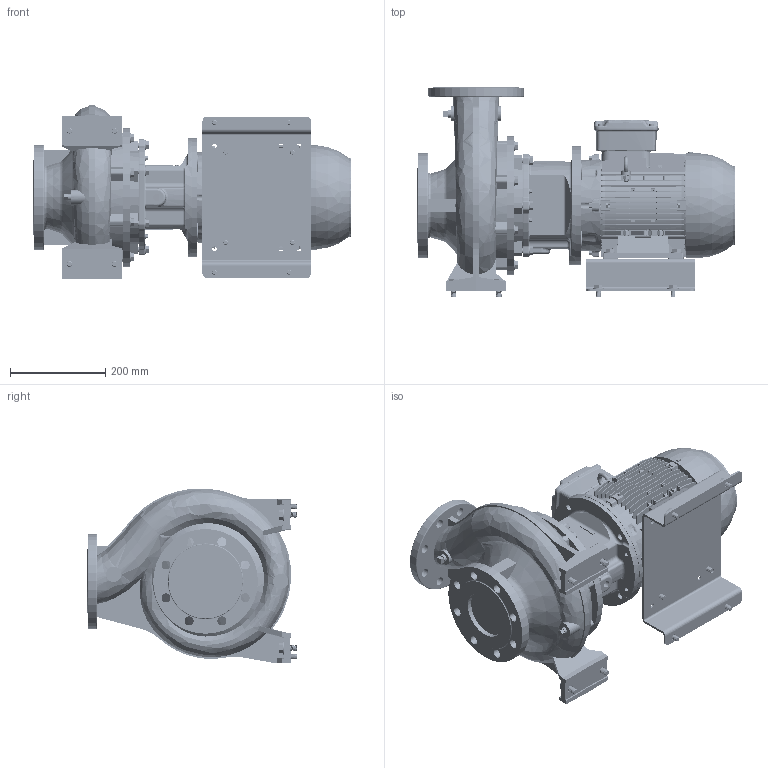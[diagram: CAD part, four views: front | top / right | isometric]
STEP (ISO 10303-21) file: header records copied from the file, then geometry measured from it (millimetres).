
FILE_DESCRIPTION (( 'STEP AP214' ), '1' );
FILE_NAME ('GSD4 80-200_4.0_(112M)_W21.STEP', '2026-07-01T02:15:37', ( '' ), ( '' ), 'SwSTEP 2.0', 'SolidWorks 2024', '' );
FILE_SCHEMA (( 'AUTOMOTIVE_DESIGN' ));
Length unit declared in the file: millimetre
Products named in the file (12): 112M ALIE3_W21T_B35; Parametric Flat Washer_M12; Parametric bolt_SFT-A253B; GSD4 80-200_4.0_(112M)_W21; 140_178 x 68 BP - 271472191; Parametric bolt_SFT-A249B; Parametric bolt_SFT-A299B; Parametric bolt and washer_SFT-A249B; Parametric bolt and washer_SFT-A253B; 80-200-112M_ﾃﾞﾌｫﾙﾄ; Parametric Flat Washer_M10; Parametric bolt and washer_SFT-A299B
Assembly tree (21 placements, depth 3):
  GSD4 80-200_4.0_(112M)_W21
    80-200-112M_ﾃﾞﾌｫﾙﾄ
    112M ALIE3_W21T_B35
    140_178 x 68 BP - 271472191
    Parametric bolt and washer_SFT-A249B  x4
      Parametric bolt_SFT-A249B
      Parametric Flat Washer_M10
    Parametric bolt and washer_SFT-A253B  x4
      Parametric bolt_SFT-A253B
      Parametric Flat Washer_M10
    Parametric bolt and washer_SFT-A299B  x4
      Parametric bolt_SFT-A299B
      Parametric Flat Washer_M12
Bounding box: 670.1 x 443 x 367.65 mm (x, y, z)
Volume: 26556011.7 mm3; surface area: 1891980.4 mm2
Topology: 37 solids, 39 shells, 5333 faces, 14176 edges, 9208 vertices
Faces by surface type: plane 2734, cylinder 1290, bspline 500, cone 419, torus 379, sphere 11
Entity records: 217257 total; most frequent: CARTESIAN_POINT 102518, ORIENTED_EDGE 25740, DIRECTION 20865, EDGE_CURVE 12870, VERTEX_POINT 8368, LINE 7149, VECTOR 7149, AXIS2_PLACEMENT_3D 6858
